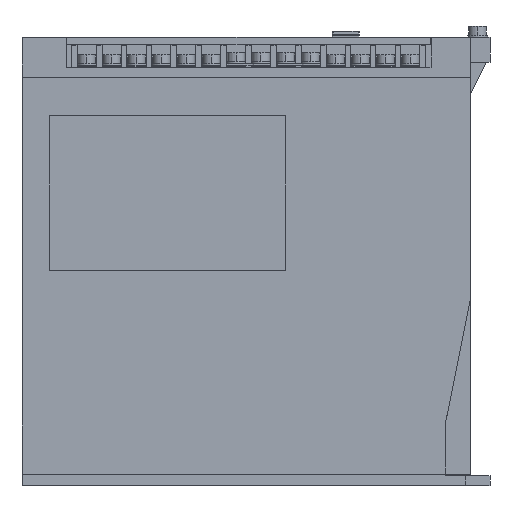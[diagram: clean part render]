
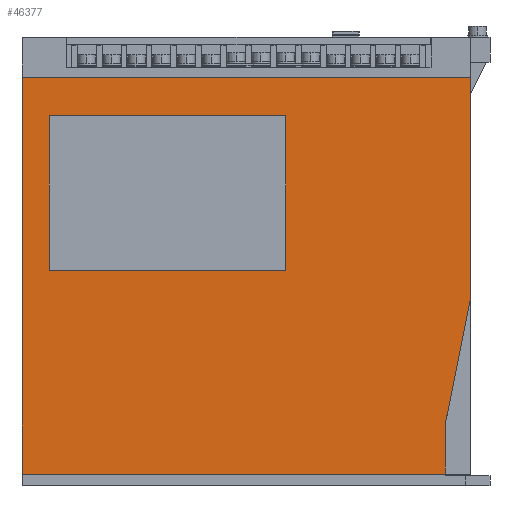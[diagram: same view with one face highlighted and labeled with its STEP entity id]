
A CAD part, left-side view. The second image highlights one B-rep face of the part: STEP entity #46377.
In plain terms, the highlighted planar face has unit normal (-1, 0, 0).
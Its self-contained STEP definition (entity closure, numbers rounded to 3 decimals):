
#2213=DIRECTION('',(0.,0.,-1.));
#2214=VECTOR('',#2213,19.9);
#2215=CARTESIAN_POINT('',(0.,10.,24.5));
#2216=LINE('',#2215,#2214);
#2220=DIRECTION('',(0.,1.,0.));
#2221=VECTOR('',#2220,170.);
#2222=CARTESIAN_POINT('',(0.,10.,4.6));
#2223=LINE('',#2222,#2221);
#2227=DIRECTION('',(0.,-1.,0.));
#2228=VECTOR('',#2227,180.);
#2229=CARTESIAN_POINT('',(0.,180.,163.9));
#2230=LINE('',#2229,#2228);
#2234=DIRECTION('',(0.,0.,-1.));
#2235=VECTOR('',#2234,89.4);
#2236=CARTESIAN_POINT('',(0.,0.,163.9));
#2237=LINE('',#2236,#2235);
#2241=DIRECTION('',(0.,0.196,-0.981));
#2242=VECTOR('',#2241,50.99);
#2243=CARTESIAN_POINT('',(0.,0.,74.5));
#2244=LINE('',#2243,#2242);
#2248=DIRECTION('',(0.,1.,0.));
#2249=VECTOR('',#2248,95.);
#2250=CARTESIAN_POINT('',(0.,74.,148.5));
#2251=LINE('',#2250,#2249);
#2255=DIRECTION('',(0.,0.,-1.));
#2256=VECTOR('',#2255,62.);
#2257=CARTESIAN_POINT('',(0.,169.,148.5));
#2258=LINE('',#2257,#2256);
#2262=DIRECTION('',(0.,-1.,0.));
#2263=VECTOR('',#2262,95.);
#2264=CARTESIAN_POINT('',(0.,169.,86.5));
#2265=LINE('',#2264,#2263);
#2269=DIRECTION('',(0.,0.,1.));
#2270=VECTOR('',#2269,62.);
#2271=CARTESIAN_POINT('',(0.,74.,86.5));
#2272=LINE('',#2271,#2270);
#2284=DIRECTION('',(0.,0.,-1.));
#2285=VECTOR('',#2284,159.3);
#2286=CARTESIAN_POINT('',(0.,180.,163.9));
#2287=LINE('',#2286,#2285);
#37609=CARTESIAN_POINT('',(0.,180.,4.6));
#37610=VERTEX_POINT('',#37609);
#37611=CARTESIAN_POINT('',(0.,10.,4.6));
#37612=VERTEX_POINT('',#37611);
#37649=CARTESIAN_POINT('',(0.,0.,163.9));
#37650=VERTEX_POINT('',#37649);
#37651=CARTESIAN_POINT('',(0.,180.,163.9));
#37652=VERTEX_POINT('',#37651);
#37990=CARTESIAN_POINT('',(0.,0.,74.5));
#37991=VERTEX_POINT('',#37990);
#38100=CARTESIAN_POINT('',(0.,10.,24.5));
#38101=VERTEX_POINT('',#38100);
#38118=CARTESIAN_POINT('',(0.,74.,148.5));
#38119=CARTESIAN_POINT('',(0.,169.,148.5));
#38120=VERTEX_POINT('',#38118);
#38121=VERTEX_POINT('',#38119);
#38122=CARTESIAN_POINT('',(0.,169.,86.5));
#38123=VERTEX_POINT('',#38122);
#38124=CARTESIAN_POINT('',(0.,74.,86.5));
#38125=VERTEX_POINT('',#38124);
#46352=CARTESIAN_POINT('',(0.,180.,164.));
#46353=DIRECTION('',(-1.,0.,0.));
#46354=DIRECTION('',(0.,0.,-1.));
#46355=AXIS2_PLACEMENT_3D('',#46352,#46353,#46354);
#46356=PLANE('',#46355);
#46357=ORIENTED_EDGE('',*,*,#46320,.T.);
#46358=ORIENTED_EDGE('',*,*,#44718,.T.);
#46360=ORIENTED_EDGE('',*,*,#46359,.F.);
#46361=ORIENTED_EDGE('',*,*,#44978,.T.);
#46362=ORIENTED_EDGE('',*,*,#46151,.T.);
#46364=ORIENTED_EDGE('',*,*,#46363,.T.);
#46365=EDGE_LOOP('',(#46357,#46358,#46360,#46361,#46362,#46364));
#46366=FACE_OUTER_BOUND('',#46365,.F.);
#46368=ORIENTED_EDGE('',*,*,#46367,.T.);
#46370=ORIENTED_EDGE('',*,*,#46369,.T.);
#46372=ORIENTED_EDGE('',*,*,#46371,.T.);
#46374=ORIENTED_EDGE('',*,*,#46373,.T.);
#46375=EDGE_LOOP('',(#46368,#46370,#46372,#46374));
#46376=FACE_BOUND('',#46375,.F.);
#44718=EDGE_CURVE('',#37612,#37610,#2223,.T.);
#44978=EDGE_CURVE('',#37652,#37650,#2230,.T.);
#46151=EDGE_CURVE('',#37650,#37991,#2237,.T.);
#46320=EDGE_CURVE('',#38101,#37612,#2216,.T.);
#46359=EDGE_CURVE('',#37652,#37610,#2287,.T.);
#46363=EDGE_CURVE('',#37991,#38101,#2244,.T.);
#46367=EDGE_CURVE('',#38120,#38121,#2251,.T.);
#46369=EDGE_CURVE('',#38121,#38123,#2258,.T.);
#46371=EDGE_CURVE('',#38123,#38125,#2265,.T.);
#46373=EDGE_CURVE('',#38125,#38120,#2272,.T.);
#46377=ADVANCED_FACE('',(#46366,#46376),#46356,.T.);
